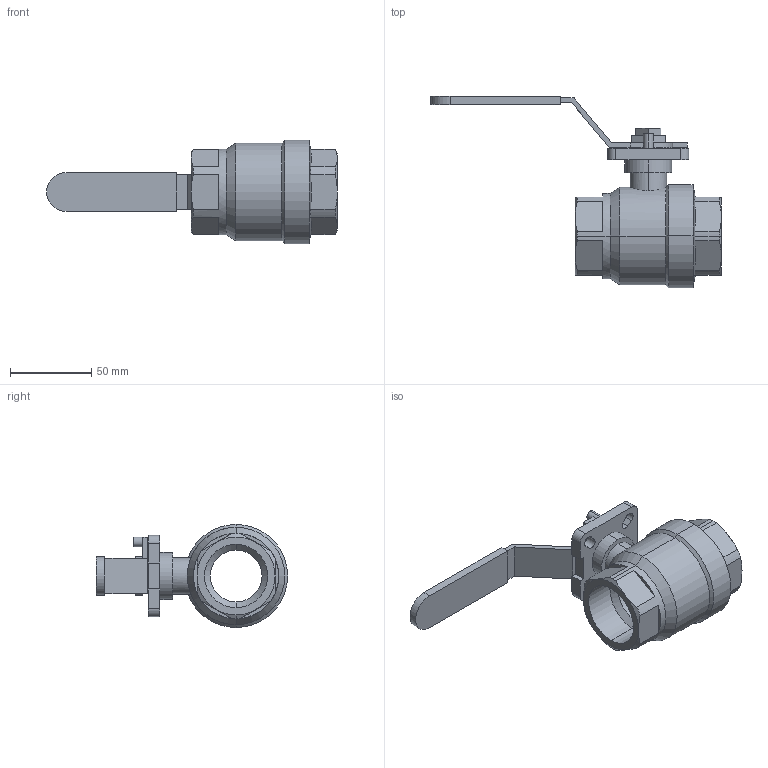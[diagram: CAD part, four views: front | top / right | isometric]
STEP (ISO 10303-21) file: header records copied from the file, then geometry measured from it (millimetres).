
FILE_DESCRIPTION (( 'STEP AP203' ), '1' );
FILE_NAME ('B3.622I032IFVPB0.STEP', '2018-09-28T13:58:16', ( '' ), ( '' ), 'SwSTEP 2.0', 'SolidWorks 2014', '' );
FILE_SCHEMA (( 'CONFIG_CONTROL_DESIGN' ));
Length unit declared in the file: millimetre
Products named in the file (1): B3.622I032IFVPB0
Bounding box: 179 x 117.75 x 63.5 mm (x, y, z)
Volume: 179817.9 mm3; surface area: 46166.6 mm2
Topology: 1 solids, 1 shells, 147 faces, 379 edges, 241 vertices
Faces by surface type: plane 80, cylinder 43, cone 24
Entity records: 4749 total; most frequent: CARTESIAN_POINT 1043, ORIENTED_EDGE 758, DIRECTION 753, EDGE_CURVE 379, AXIS2_PLACEMENT_3D 260, VERTEX_POINT 241, LINE 233, VECTOR 233
